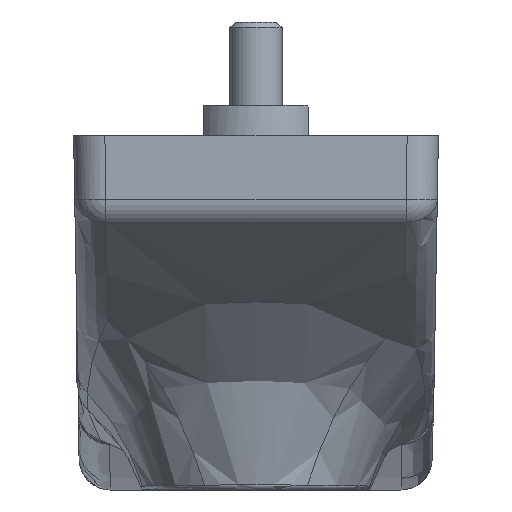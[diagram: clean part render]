
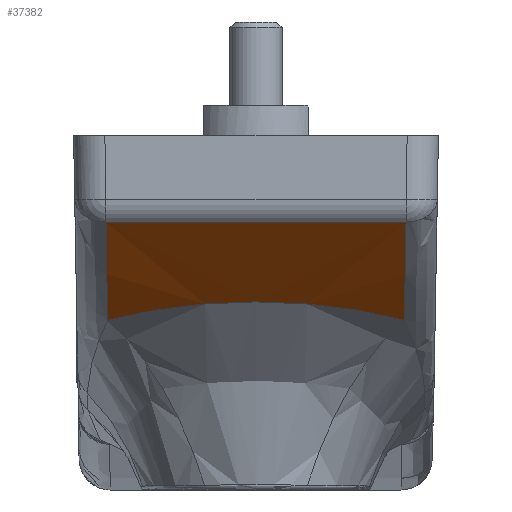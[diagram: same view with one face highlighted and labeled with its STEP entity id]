
A CAD part, front view. The second image highlights one B-rep face of the part: STEP entity #37382.
In plain terms, the highlighted cylindrical face has radius 80 mm (diameter 160 mm), a partial arc.
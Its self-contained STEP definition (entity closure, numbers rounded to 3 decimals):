
#1791 = CARTESIAN_POINT ( 'NONE',  ( -26.463, -103.797, 6.32 ) ) ;
#3825 = CARTESIAN_POINT ( 'NONE',  ( -39.639, -94.172, -1.339 ) ) ;
#5738 = CARTESIAN_POINT ( 'NONE',  ( -31.19, -93., -2.119 ) ) ;
#6348 = ORIENTED_EDGE ( 'NONE', *, *, #17467, .T. ) ;
#8898 = CYLINDRICAL_SURFACE ( 'NONE', #65465, 80. ) ;
#15767 = CARTESIAN_POINT ( 'NONE',  ( -55.091, -91.446, -3.105 ) ) ;
#17467 = EDGE_CURVE ( 'NONE', #67843, #148389, #179441, .T. ) ;
#18066 = CARTESIAN_POINT ( 'NONE',  ( -26.463, -103.797, 6.32 ) ) ;
#18368 = CARTESIAN_POINT ( 'NONE',  ( -52.854, -92.312, -2.562 ) ) ;
#19927 = CARTESIAN_POINT ( 'NONE',  ( -26.621, -91.446, -3.105 ) ) ;
#30042 = CARTESIAN_POINT ( 'NONE',  ( -55.091, -91.446, -3.105 ) ) ;
#31970 = CARTESIAN_POINT ( 'NONE',  ( -45.751, -93.88, -1.536 ) ) ;
#32610 = CARTESIAN_POINT ( 'NONE',  ( -26.575, -95.863, -0.369 ) ) ;
#33902 = CARTESIAN_POINT ( 'NONE',  ( -34.759, -93.728, -1.638 ) ) ;
#34276 = CARTESIAN_POINT ( 'NONE',  ( -55.091, -91.446, -3.105 ) ) ;
#35545 = CARTESIAN_POINT ( 'NONE',  ( -55.249, -103.797, 6.32 ) ) ;
#35801 = CARTESIAN_POINT ( 'NONE',  ( -32.373, -93.281, -1.934 ) ) ;
#37382 = ADVANCED_FACE ( 'NONE', ( #69894 ), #8898, .T. ) ;
#37671 = CARTESIAN_POINT ( 'NONE',  ( -28.863, -92.314, -2.561 ) ) ;
#39008 =( BOUNDED_CURVE ( )  B_SPLINE_CURVE ( 3, ( #167272, #118706, #148905, #15767 ),
 .UNSPECIFIED., .F., .F. ) 
 B_SPLINE_CURVE_WITH_KNOTS ( ( 4, 4 ),
 ( 5.534, 5.729 ),
 .UNSPECIFIED. ) 
 CURVE ( )  GEOMETRIC_REPRESENTATION_ITEM ( )  RATIONAL_B_SPLINE_CURVE ( ( 1., 0.997, 0.997, 1. ) ) 
 REPRESENTATION_ITEM ( '' )  );
#41803 = DIRECTION ( 'NONE',  ( 1., 0., 0. ) ) ;
#58003 = ORIENTED_EDGE ( 'NONE', *, *, #127555, .T. ) ;
#60853 = ORIENTED_EDGE ( 'NONE', *, *, #150789, .T. ) ;
#61024 = CARTESIAN_POINT ( 'NONE',  ( -46.965, -93.711, -1.649 ) ) ;
#62948 = CARTESIAN_POINT ( 'NONE',  ( -38.403, -94.117, -1.377 ) ) ;
#65465 = AXIS2_PLACEMENT_3D ( 'NONE', #144871, #41803, #145823 ) ;
#66698 = CARTESIAN_POINT ( 'NONE',  ( -27.727, -91.913, -2.816 ) ) ;
#67843 = VERTEX_POINT ( 'NONE', #1791 ) ;
#69894 = FACE_OUTER_BOUND ( 'NONE', #173783, .T. ) ;
#77563 = CARTESIAN_POINT ( 'NONE',  ( -43.316, -94.116, -1.377 ) ) ;
#78344 = EDGE_CURVE ( 'NONE', #148389, #173924, #39008, .T. ) ;
#91253 = CARTESIAN_POINT ( 'NONE',  ( -45.143, -93.949, -1.489 ) ) ;
#93103 = VECTOR ( 'NONE', #192062, 1000. ) ;
#95070 = CARTESIAN_POINT ( 'NONE',  ( -26.621, -91.446, -3.105 ) ) ;
#95401 = ORIENTED_EDGE ( 'NONE', *, *, #78344, .T. ) ;
#104825 = CARTESIAN_POINT ( 'NONE',  ( -47.571, -93.613, -1.714 ) ) ;
#105477 = CARTESIAN_POINT ( 'NONE',  ( -147.316, -103.797, 6.32 ) ) ;
#118706 = CARTESIAN_POINT ( 'NONE',  ( -55.19, -99.993, 2.782 ) ) ;
#127064 = CARTESIAN_POINT ( 'NONE',  ( -35.965, -93.894, -1.526 ) ) ;
#127555 = EDGE_CURVE ( 'NONE', #173924, #183446, #166312, .T. ) ;
#136917 = CARTESIAN_POINT ( 'NONE',  ( -42.093, -94.172, -1.339 ) ) ;
#144871 = CARTESIAN_POINT ( 'NONE',  ( -147.316, -49.32, 64.906 ) ) ;
#145823 = DIRECTION ( 'NONE',  ( 0., 0., -1. ) ) ;
#148389 = VERTEX_POINT ( 'NONE', #35545 ) ;
#148905 = CARTESIAN_POINT ( 'NONE',  ( -55.137, -95.863, -0.369 ) ) ;
#150789 = EDGE_CURVE ( 'NONE', #183446, #67843, #182988, .T. ) ;
#151527 = CARTESIAN_POINT ( 'NONE',  ( -53.985, -91.913, -2.816 ) ) ;
#152192 = CARTESIAN_POINT ( 'NONE',  ( -26.522, -99.993, 2.782 ) ) ;
#165122 = CARTESIAN_POINT ( 'NONE',  ( -49.37, -93.275, -1.938 ) ) ;
#166312 = B_SPLINE_CURVE_WITH_KNOTS ( 'NONE', 3,
 ( #30042, #151527, #18368, #178770, #165122, #104825, #61024, #31970, #91253, #77563, #136917, #3825, #62948, #127064, #33902, #35801, #5738, #37671, #66698, #95070 ),
 .UNSPECIFIED., .F., .F.,
 ( 4, 2, 2, 2, 2, 2, 2, 2, 2, 4 ),
 ( 0., 0.004, 0.007, 0.009, 0.011, 0.015, 0.018, 0.022, 0.026, 0.029 ),
 .UNSPECIFIED. ) ;
#167272 = CARTESIAN_POINT ( 'NONE',  ( -55.249, -103.797, 6.32 ) ) ;
#173783 = EDGE_LOOP ( 'NONE', ( #95401, #58003, #60853, #6348 ) ) ;
#173924 = VERTEX_POINT ( 'NONE', #34276 ) ;
#178770 = CARTESIAN_POINT ( 'NONE',  ( -50.546, -92.994, -2.123 ) ) ;
#179441 = LINE ( 'NONE', #105477, #93103 ) ;
#182988 =( BOUNDED_CURVE ( )  B_SPLINE_CURVE ( 3, ( #19927, #32610, #152192, #18066 ),
 .UNSPECIFIED., .F., .F. ) 
 B_SPLINE_CURVE_WITH_KNOTS ( ( 4, 4 ),
 ( 3.696, 3.891 ),
 .UNSPECIFIED. ) 
 CURVE ( )  GEOMETRIC_REPRESENTATION_ITEM ( )  RATIONAL_B_SPLINE_CURVE ( ( 1., 0.997, 0.997, 1. ) ) 
 REPRESENTATION_ITEM ( '' )  );
#183446 = VERTEX_POINT ( 'NONE', #185439 ) ;
#185439 = CARTESIAN_POINT ( 'NONE',  ( -26.621, -91.446, -3.105 ) ) ;
#192062 = DIRECTION ( 'NONE',  ( -1., 0., 0. ) ) ;
